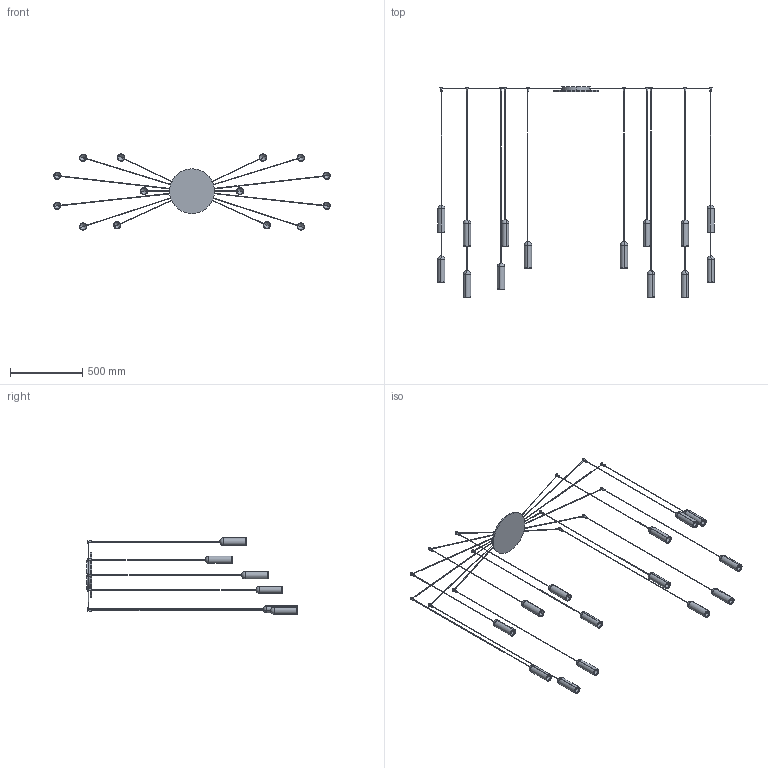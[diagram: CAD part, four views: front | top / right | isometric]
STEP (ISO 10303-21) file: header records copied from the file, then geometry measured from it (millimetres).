
FILE_DESCRIPTION (( 'STEP AP203' ), '1' );
FILE_NAME ('NANB5-00-NANUM_14_B sospensione.STEP', '2025-05-05T14:42:22', ( '' ), ( '' ), 'SwSTEP 2.0', 'SolidWorks 2022', '' );
FILE_SCHEMA (( 'CONFIG_CONTROL_DESIGN' ));
Length unit declared in the file: millimetre
Products named in the file (8): Nanum_Rosone_NANUM_14_B sospensione<A macchina>; NANUM_LAMPADA SINGOLA_H=1750; NANUM_LAMPADA SINGOLA_H=1550; NANUM_LAMPADA SINGOLA_H=1650; NANUM_LAMPADA SINGOLA_H=2000; NANB5-00-NANUM_14_B sospensione; NANUM_LAMPADA SINGOLA_H=1900; NANUM_LAMPADA SINGOLA_H=1600
Assembly tree (15 placements, depth 2):
  NANB5-00-NANUM_14_B sospensione
    Nanum_Rosone_NANUM_14_B sospensione<A macchina>
    NANUM_LAMPADA SINGOLA_H=1650  x2
    NANUM_LAMPADA SINGOLA_H=2000  x2
    NANUM_LAMPADA SINGOLA_H=1900  x4
    NANUM_LAMPADA SINGOLA_H=1750  x2
    NANUM_LAMPADA SINGOLA_H=1550  x3
    NANUM_LAMPADA SINGOLA_H=1600
Bounding box: 1911.91 x 1454.5 x 526.9 mm (x, y, z)
Volume: 2822851.8 mm3; surface area: 1339837.9 mm2
Topology: 42 solids, 42 shells, 533 faces, 1159 edges, 655 vertices
Faces by surface type: cylinder 284, plane 109, cone 56, sphere 56, torus 28
Entity records: 8229 total; most frequent: CARTESIAN_POINT 1690, DIRECTION 1278, ORIENTED_EDGE 1022, AXIS2_PLACEMENT_3D 559, EDGE_CURVE 511, VERTEX_POINT 311, EDGE_LOOP 302, ADVANCED_FACE 277
